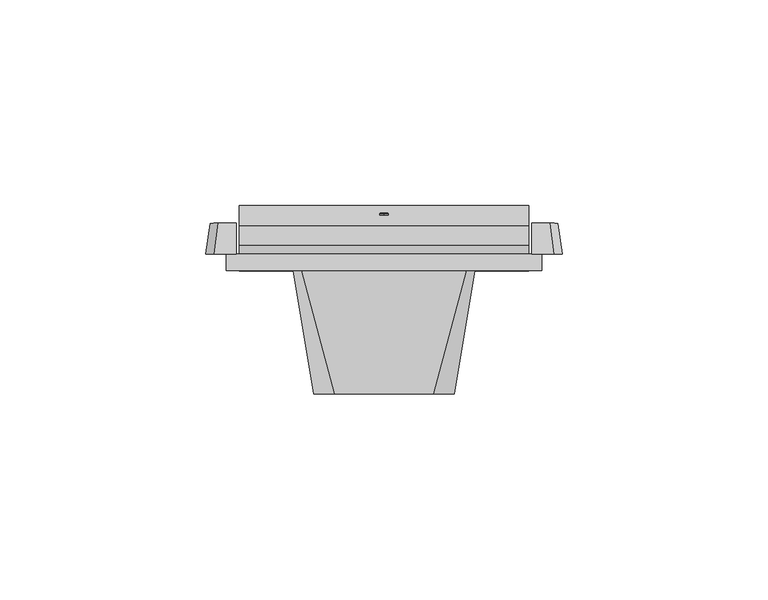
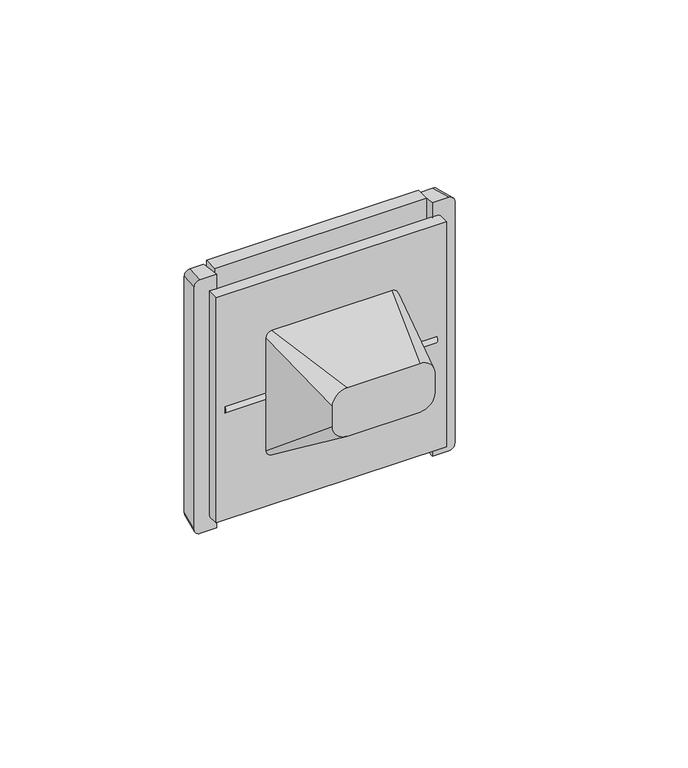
"""IFC4 building model written with IfcOpenShell, lengths in millimetres: proxy geometry, IEK_Forte&Piano_Выключатель : В1 И_FP102."""

from ifc_helpers import new_model, si_unit, point, frame, frame_2d, origin, place, context, project, spatial, polyline, circle_curve, ellipse_curve, trimmed, segment, composite_curve, outline, extrude, source, transform, mapped, element, save
from ifc_brep_helpers import plane_surface, cylinder_surface, revolved_surface, extruded_surface, spline_surface, advanced_brep


def electrical_fixtures_85e22a2f(model_context):
    return source(origin(), model_context, "Body", "SolidModel", [
        advanced_brep(
        [(35.2, 6.2549179, 2.9812023), (35.2, 0.9979294, 0.5298284), (35.2, 1.5972872, -2.8692983), (35.2, 6.5964168, -3.3066655), (35.2, 10.7814607, -43.5210494), (35.2, 15.7741028, -43.2498951), (35.2, 10.987727, 44.8795088), (35.2, 6.2549179, 44.8795088), (-35.2, 6.2549179, 2.9812023), (-35.2, 6.2549179, 44.8795088), (-35.2, 10.987727, 44.8795088), (-35.2, 15.7741028, -43.2498951), (-35.2, 10.7814607, -43.5210494), (-35.2, 6.5964168, -3.3066655), (-35.2, 1.5972872, -2.8692983), (-35.2, 0.9979294, 0.5298284), (-6.0000251, 7.4154801, -11.1771032), (6.0000251, 7.4154801, -11.1771032), (6.0000251, 7.8317535, -15.1771032), (-6.0000251, 7.8317535, -15.1771032), (6.0000251, 11.5120925, -11.1771032), (-6.0000251, 11.5120925, -11.1771032), (-6.0000251, 11.5120925, -15.1771032), (6.0000251, 11.5120925, -15.1771032)],
        [
            (0, 1),
            (1, 2, circle_curve(frame((35.2, 1.7530049, -1.0894363), z_axis=(1.0, 0.0, 0.0), x_axis=(0.0, 1.0, 0.0)), 1.7866608)),
            (2, 3),
            (3, 4),
            (4, 5),
            (5, 6),
            (6, 7),
            (7, 0),
            (8, 9),
            (9, 10),
            (10, 11),
            (11, 12),
            (12, 13),
            (13, 14),
            (14, 15, circle_curve(frame((-35.2, 1.7530049, -1.0894363), z_axis=(-1.0, 0.0, 0.0), x_axis=(0.0, 1.0, 0.0)), 1.7866608)),
            (15, 8),
            (7, 9),
            (8, 0),
            (15, 1),
            (14, 2),
            (13, 3),
            (12, 4),
            (16, 17),
            (17, 18, ellipse_curve(frame((6.0000251, 7.6236168, -13.1771032), z_axis=(0.0, 0.9946284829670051, 0.10350932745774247), x_axis=(0.0, -0.10350932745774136, 0.9946284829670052)), 2.0108011, 2.0)),
            (18, 19),
            (19, 16, ellipse_curve(frame((-6.0000251, 7.6236168, -13.1771032), z_axis=(0.0, 0.9946284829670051, 0.10350932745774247), x_axis=(0.0, -0.10350932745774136, 0.9946284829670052)), 2.0108011, 2.0)),
            (11, 5),
            (10, 6),
            (20, 21),
            (21, 22, circle_curve(frame((-6.0000251, 11.5120925, -13.1771032), z_axis=(0.0, -1.0, 0.0), x_axis=(1.0, 0.0, 0.0)), 2.0)),
            (22, 23),
            (23, 20, circle_curve(frame((6.0000251, 11.5120925, -13.1771032), z_axis=(0.0, -1.0, 0.0), x_axis=(1.0, 0.0, 0.0)), 2.0)),
            (20, 17),
            (16, 21),
            (19, 22),
            (18, 23),
        ],
        [
            plane_surface(frame((35.2, -0.6655077, -0.2458451), z_axis=(1.0, 0.0, 0.0), x_axis=(0.0, -0.9063077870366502, -0.42261826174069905))),
            plane_surface(frame((-35.2, -0.6655077, -0.2458451), z_axis=(-1.0, 0.0, 0.0), x_axis=(0.0, 0.9063077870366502, 0.42261826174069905))),
            plane_surface(frame((35.2, 6.2549179, 44.8795088), z_axis=(0.0, -1.0, 0.0), x_axis=(-1.0, 0.0, 0.0))),
            plane_surface(frame((35.2, 6.2549179, 2.9812023), z_axis=(0.0, -0.42261826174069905, 0.9063077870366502), x_axis=(-1.0, 0.0, 0.0))),
            cylinder_surface(frame((-35.2, 1.7530049, -1.0894363), z_axis=(1.0, 0.0, 0.0), x_axis=(0.0, 1.0, 0.0)), 1.7866608),
            plane_surface(frame((35.2, 1.5972872, -2.8692983), z_axis=(0.0, -0.08715574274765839, -0.9961946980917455), x_axis=(-1.0, 0.0, 0.0))),
            plane_surface(frame((35.2, 6.5964168, -3.3066655), z_axis=(0.0, -0.9946284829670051, -0.10350932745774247), x_axis=(-1.0, 0.0, 0.0))),
            plane_surface(frame((35.2, 10.7814607, -43.5210494), z_axis=(0.0, 0.05423084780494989, -0.998528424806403), x_axis=(-1.0, 0.0, 0.0))),
            plane_surface(frame((35.2, 15.7741028, -43.2498951), z_axis=(0.0, 0.9985284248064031, 0.05423084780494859), x_axis=(-1.0, 0.0, 0.0))),
            plane_surface(frame((35.2, 10.987727, 44.8795088), z_axis=(0.0, 0.0, 1.0), x_axis=(-1.0, 0.0, 0.0))),
            plane_surface(frame((-6.0000251, 11.5120925, -11.1771032), z_axis=(0.0, -1.0, 0.0), x_axis=(1.0, 0.0, 0.0))),
            plane_surface(frame((6.0000251, 3.5120925, -11.1771032), z_axis=(0.0, 0.0, -1.0), x_axis=(0.0, 1.0, 0.0))),
            revolved_surface(polyline([(-4.0000251, 7.4154801, -13.1771032), (-4.0000251, 11.5120925, -13.1771032)]), (-6.0000251, 11.5120925, -13.1771032), (0.0, -1.0, 0.0)),
            plane_surface(frame((-6.0000251, 3.5120925, -15.1771032), z_axis=(0.0, 0.0, 1.0), x_axis=(0.0, 1.0, 0.0))),
            revolved_surface(polyline([(8.0000251, 7.4154801, -13.1771032), (8.0000251, 11.5120925, -13.1771032)]), (6.0000251, 11.5120925, -13.1771032), (0.0, -1.0, 0.0)),
        ],
        [
            (0, [[1, 2, 3, 4, 5, 6, 7, 8]]),
            (1, [[9, 10, 11, 12, 13, 14, 15, 16]]),
            (2, [[-8, 17, -9, 18]]),
            (3, [[-1, -18, -16, 19]]),
            (4, [[-2, -19, -15, 20]]),
            (5, [[-3, -20, -14, 21]]),
            (6, [[-4, -21, -13, 22], [23, 24, 25, 26]]),
            (7, [[-5, -22, -12, 27]]),
            (8, [[-6, -27, -11, 28]]),
            (9, [[-7, -28, -10, -17]]),
            (10, [[29, 30, 31, 32]]),
            (11, [[-29, 33, -23, 34]]),
            (12, [[-30, -34, -26, 35]]),
            (13, [[-31, -35, -25, 36]]),
            (14, [[-32, -36, -24, -33]]),
        ],
    ),
        extrude(outline(composite_curve([segment(trimmed(circle_curve(frame_2d((0.0, -1.0000001)), 1.0), [point((0.0, -2.0000001))], [point((0.0, 0.0))], False, "CARTESIAN"), True, "CONTINUOUS"), segment(trimmed(circle_curve(frame_2d((0.0, -1.0000001)), 1.0), [point((0.0, 0.0))], [point((0.0, -2.0000001))], False, "CARTESIAN"), True, "CONTINUOUS")], self_intersect=False)), frame((0.0, 13.4719361, -0.8611253), z_axis=(0.0, 0.9985284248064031, 0.0542308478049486), x_axis=(1.0, 0.0, 0.0)), (0.0, 0.0, 1.0), 0.5),
        advanced_brep(
        [(35.8576533, 11.5, 43.5), (35.8576533, 11.5, -43.5), (35.8576533, 4.0, -44.5), (35.8576533, 4.0, -39.5), (35.8576533, 4.0, 39.5), (35.8576533, 4.0, 44.5), (-35.8576533, 11.5, -43.5), (-35.8576533, 11.5, 43.5), (-35.8576533, 4.0, 44.5), (-35.8576533, 4.0, 39.5), (-35.8576533, 4.0, -39.5), (-35.8576533, 4.0, -44.5), (40.25, 11.5, 43.5), (42.25, 11.5, 41.5), (42.25, 11.5, -41.5), (40.25, 11.5, -43.5), (-40.25, 11.5, -43.5), (-42.25, 11.5, -41.5), (-42.25, 11.5, 41.5), (-40.25, 11.5, 43.5), (-41.25, 4.0, 44.5), (-43.25, 4.0, 42.5), (-43.25, 4.0, -42.5), (-41.25, 4.0, -44.5), (-38.25, 4.0, -39.5), (-38.25, 4.0, 39.5), (41.25, 4.0, -44.5), (43.25, 4.0, -42.5), (43.25, 4.0, 42.5), (41.25, 4.0, 44.5), (38.25, 4.0, 39.5), (38.25, 4.0, -39.5), (-38.25, 0.0, 39.5), (-38.25, 0.0, -39.5), (38.25, 0.0, -39.5), (38.25, 0.0, 39.5)],
        [
            (0, 1),
            (1, 2),
            (2, 3),
            (3, 4),
            (4, 5),
            (5, 0),
            (6, 7),
            (7, 8),
            (8, 9),
            (9, 10),
            (10, 11),
            (11, 6),
            (12, 13, circle_curve(frame((40.25, 11.5, 41.5), z_axis=(0.0, 1.0, 0.0), x_axis=(-1.0, 0.0, 0.0)), 2.0)),
            (13, 14),
            (14, 15, circle_curve(frame((40.25, 11.5, -41.5), z_axis=(0.0, 1.0, 0.0), x_axis=(-1.0, 0.0, 0.0)), 2.0)),
            (15, 1),
            (0, 12),
            (16, 17, circle_curve(frame((-40.25, 11.5, -41.5), z_axis=(0.0, 1.0, 0.0), x_axis=(-1.0, 0.0, 0.0)), 2.0)),
            (17, 18),
            (18, 19, circle_curve(frame((-40.25, 11.5, 41.5), z_axis=(0.0, 1.0, 0.0), x_axis=(-1.0, 0.0, 0.0)), 2.0)),
            (19, 7),
            (6, 16),
            (20, 21, circle_curve(frame((-41.25, 4.0, 42.5), z_axis=(0.0, -1.0, 0.0), x_axis=(-1.0, 0.0, 0.0)), 2.0)),
            (21, 22),
            (22, 23, circle_curve(frame((-41.25, 4.0, -42.5), z_axis=(0.0, -1.0, 0.0), x_axis=(-1.0, 0.0, 0.0)), 2.0)),
            (23, 11),
            (10, 24),
            (24, 25),
            (25, 9),
            (8, 20),
            (26, 27, circle_curve(frame((41.25, 4.0, -42.5), z_axis=(0.0, -1.0, 0.0), x_axis=(-1.0, 0.0, 0.0)), 2.0)),
            (27, 28),
            (28, 29, circle_curve(frame((41.25, 4.0, 42.5), z_axis=(0.0, -1.0, 0.0), x_axis=(-1.0, 0.0, 0.0)), 2.0)),
            (29, 5),
            (4, 30),
            (30, 31),
            (31, 3),
            (2, 26),
            (29, 12),
            (19, 20),
            (28, 13),
            (27, 14),
            (26, 15),
            (23, 16),
            (22, 17),
            (21, 18),
            (3, 10),
            (9, 4),
            (32, 33),
            (33, 34),
            (34, 35),
            (35, 32),
            (32, 25),
            (24, 33),
            (31, 34),
            (30, 35),
        ],
        [
            plane_surface(frame((35.8576533, 11.5, 44.5), z_axis=(-1.0, 0.0, 0.0), x_axis=(0.0, -1.0, 0.0))),
            plane_surface(frame((-35.8576533, 11.5, -44.5), z_axis=(1.0, 0.0, 0.0), x_axis=(0.0, -1.0, 0.0))),
            plane_surface(frame((0.0, 11.5, 0.0), z_axis=(0.0, 1.0, 0.0), x_axis=(1.0, 0.0, 0.0))),
            plane_surface(frame((0.0, 4.0, 0.0), z_axis=(0.0, -1.0, 0.0), x_axis=(1.0, 0.0, 0.0))),
            plane_surface(frame((0.0, 4.0, 44.5), z_axis=(0.0, 0.13216372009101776, 0.9912279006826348), x_axis=(1.0, 0.0, 0.0))),
            extruded_surface(trimmed(circle_curve(frame((41.25, 4.0, 42.5), z_axis=(0.0, 1.0, 0.0), x_axis=(-1.0, 0.0, 0.0)), 2.0), [point((41.25, 4.0, 44.5))], [point((43.25, 4.0, 42.5))], True, "CARTESIAN"), (-1.0, 7.5, -1.0), 7.632168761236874),
            plane_surface(frame((43.25, 4.0, 0.0), z_axis=(0.9912279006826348, 0.13216372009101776, 0.0), x_axis=(0.0, 0.0, -1.0))),
            extruded_surface(trimmed(circle_curve(frame((41.25, 4.0, -42.5), z_axis=(0.0, 1.0, 0.0), x_axis=(-1.0, 0.0, 0.0)), 2.0), [point((43.25, 4.0, -42.5))], [point((41.25, 4.0, -44.5))], True, "CARTESIAN"), (-1.0, 7.5, 1.0), 7.632168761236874),
            plane_surface(frame((0.0, 4.0, -44.5), z_axis=(0.0, 0.13216372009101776, -0.9912279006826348), x_axis=(-1.0, 0.0, 0.0))),
            extruded_surface(trimmed(circle_curve(frame((-41.25, 4.0, -42.5), z_axis=(0.0, 1.0, 0.0), x_axis=(-1.0, 0.0, 0.0)), 2.0), [point((-41.25, 4.0, -44.5))], [point((-43.25, 4.0, -42.5))], True, "CARTESIAN"), (1.0, 7.5, 1.0), 7.632168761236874),
            plane_surface(frame((-43.25, 4.0, 0.0), z_axis=(-0.9912279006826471, 0.13216372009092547, 0.0), x_axis=(0.0, 0.0, 1.0))),
            extruded_surface(trimmed(circle_curve(frame((-41.25, 4.0, 42.5), z_axis=(0.0, 1.0, 0.0), x_axis=(-1.0, 0.0, 0.0)), 2.0), [point((-43.25, 4.0, 42.5))], [point((-41.25, 4.0, 44.5))], True, "CARTESIAN"), (1.0, 7.5, -1.0), 7.632168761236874),
            plane_surface(frame((-38.25, 4.0, 39.5), z_axis=(0.0, 1.0, 0.0), x_axis=(0.0, 0.0, 1.0))),
            plane_surface(frame((-38.25, 0.0, 39.5), z_axis=(0.0, -1.0, 0.0), x_axis=(0.0, 0.0, -1.0))),
            plane_surface(frame((-38.25, 0.0, 39.5), z_axis=(-1.0, 0.0, 0.0), x_axis=(0.0, 1.0, 0.0))),
            plane_surface(frame((-38.25, 0.0, -39.5), z_axis=(0.0, 0.0, -1.0), x_axis=(0.0, 1.0, 0.0))),
            plane_surface(frame((38.25, 0.0, -39.5), z_axis=(1.0, 0.0, 0.0), x_axis=(0.0, 1.0, 0.0))),
            plane_surface(frame((38.25, 0.0, 39.5), z_axis=(0.0, 0.0, 1.0), x_axis=(0.0, 1.0, 0.0))),
        ],
        [
            (0, [[1, 2, 3, 4, 5, 6]]),
            (1, [[7, 8, 9, 10, 11, 12]]),
            (2, [[13, 14, 15, 16, -1, 17]]),
            (2, [[18, 19, 20, 21, -7, 22]]),
            (3, [[23, 24, 25, 26, -11, 27, 28, 29, -9, 30]]),
            (3, [[31, 32, 33, 34, -5, 35, 36, 37, -3, 38]]),
            (4, [[39, -17, -6, -34]]),
            (4, [[40, -30, -8, -21]]),
            (5, [[-13, -39, -33, 41]]),
            (6, [[-14, -41, -32, 42]]),
            (7, [[-15, -42, -31, 43]]),
            (8, [[-43, -38, -2, -16]]),
            (8, [[44, -22, -12, -26]]),
            (9, [[-18, -44, -25, 45]]),
            (10, [[-19, -45, -24, 46]]),
            (11, [[-20, -46, -23, -40]]),
            (12, [[47, -10, 48, -4]]),
            (13, [[49, 50, 51, 52]]),
            (14, [[-49, 53, -28, 54]]),
            (15, [[-50, -54, -27, -47, -37, 55]]),
            (16, [[-51, -55, -36, 56]]),
            (17, [[-52, -56, -35, -48, -29, -53]]),
        ],
    ),
        advanced_brep(
        [(-12.0, -30.0, 17.0), (-17.0, -30.0, 12.0), (-17.0, -30.0, 5.0), (-12.0, -30.0, 0.0), (12.0, -30.0, 0.0), (17.0, -30.0, 5.0), (17.0, -30.0, 12.0), (12.0, -30.0, 17.0), (-20.0, 0.0, 22.0), (20.0, 0.0, 22.0), (22.0, 0.0, 20.0), (22.0, 0.0, -20.0), (20.0, 0.0, -22.0), (-20.0, 0.0, -22.0), (-22.0, 0.0, -20.0), (-22.0, 0.0, 20.0)],
        [
            (0, 1, circle_curve(frame((-12.0, -30.0, 12.0), z_axis=(0.0, -1.0, 0.0), x_axis=(1.0, 0.0, 0.0)), 5.0)),
            (1, 2),
            (2, 3, circle_curve(frame((-12.0, -30.0, 5.0), z_axis=(0.0, -1.0, 0.0), x_axis=(1.0, 0.0, 0.0)), 5.0)),
            (3, 4),
            (4, 5, circle_curve(frame((12.0, -30.0, 5.0), z_axis=(0.0, -1.0, 0.0), x_axis=(1.0, 0.0, 0.0)), 5.0)),
            (5, 6),
            (6, 7, circle_curve(frame((12.0, -30.0, 12.0), z_axis=(0.0, -1.0, 0.0), x_axis=(1.0, 0.0, 0.0)), 5.0)),
            (7, 0),
            (8, 9),
            (9, 10, circle_curve(frame((20.0, 0.0, 20.0), z_axis=(0.0, 1.0, 0.0), x_axis=(1.0, 0.0, 0.0)), 2.0)),
            (10, 11),
            (11, 12, circle_curve(frame((20.0, 0.0, -20.0), z_axis=(0.0, 1.0, 0.0), x_axis=(1.0, 0.0, 0.0)), 2.0)),
            (12, 13),
            (13, 14, circle_curve(frame((-20.0, 0.0, -20.0), z_axis=(0.0, 1.0, 0.0), x_axis=(1.0, 0.0, 0.0)), 2.0)),
            (14, 15),
            (15, 8, circle_curve(frame((-20.0, 0.0, 20.0), z_axis=(0.0, 1.0, 0.0), x_axis=(1.0, 0.0, 0.0)), 2.0)),
            (8, 0),
            (7, 9),
            (6, 10),
            (5, 11),
            (4, 12),
            (3, 13),
            (2, 14),
            (1, 15),
        ],
        [
            plane_surface(frame((0.0, -30.0, 8.5), z_axis=(0.0, -1.0, 0.0), x_axis=(-1.0, 0.0, 0.0))),
            plane_surface(frame((0.0, 0.0, 0.0), z_axis=(0.0, 1.0, 0.0), x_axis=(-1.0, 0.0, 0.0))),
            plane_surface(frame((0.0, 0.0, 22.0), z_axis=(0.0, -0.16439898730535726, 0.9863939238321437), x_axis=(-1.0, 0.0, 0.0))),
            spline_surface(2, 1, [[(22.0, 0.0, 20.0), (17.0, -30.0, 12.0)], [(22.0, 0.0, 22.0), (17.0, -30.0, 17.0)], [(20.0, 0.0, 22.0), (12.0, -30.0, 17.0)]], [3, 3], [2, 2], [0.0, 1.0], [0.0, 1.0], weights=[[1.0, 1.0], [0.7071067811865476, 0.7071067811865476], [1.0, 1.0]]),
            plane_surface(frame((22.0, 0.0, 0.0), z_axis=(0.9863939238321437, -0.1643989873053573, 0.0), x_axis=(0.0, 0.0, 1.0))),
            spline_surface(2, 1, [[(20.0, 0.0, -22.0), (12.0, -30.0, 0.0)], [(22.0, 0.0, -22.0), (17.0, -30.0, 0.0)], [(22.0, 0.0, -20.0), (17.0, -30.0, 5.0)]], [3, 3], [2, 2], [0.0, 1.0], [0.0, 1.0], weights=[[1.0, 1.0], [0.7071067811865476, 0.7071067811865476], [1.0, 1.0]]),
            plane_surface(frame((0.0, 0.0, -22.0), z_axis=(0.0, -0.591363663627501, -0.8064049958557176), x_axis=(1.0, 0.0, 0.0))),
            spline_surface(2, 1, [[(-22.0, 0.0, -20.0), (-17.0, -30.0, 5.0)], [(-22.0, 0.0, -22.0), (-17.0, -30.0, 0.0)], [(-20.0, 0.0, -22.0), (-12.0, -30.0, 0.0)]], [3, 3], [2, 2], [0.0, 1.0], [0.0, 1.0], weights=[[1.0, 1.0], [0.7071067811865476, 0.7071067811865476], [1.0, 1.0]]),
            plane_surface(frame((-22.0, 0.0, 0.0), z_axis=(-0.9863939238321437, -0.1643989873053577, 0.0), x_axis=(0.0, 0.0, -1.0))),
            spline_surface(2, 1, [[(-20.0, 0.0, 22.0), (-12.0, -30.0, 17.0)], [(-22.0, 0.0, 22.0), (-17.0, -30.0, 17.0)], [(-22.0, 0.0, 20.0), (-17.0, -30.0, 12.0)]], [3, 3], [2, 2], [0.0, 1.0], [0.0, 1.0], weights=[[1.0, 1.0], [0.7071067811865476, 0.7071067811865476], [1.0, 1.0]]),
        ],
        [
            (0, [[1, 2, 3, 4, 5, 6, 7, 8]]),
            (1, [[9, 10, 11, 12, 13, 14, 15, 16]]),
            (2, [[-9, 17, -8, 18]]),
            (3, [[-10, -18, -7, 19]]),
            (4, [[-11, -19, -6, 20]]),
            (5, [[-12, -20, -5, 21]]),
            (6, [[-13, -21, -4, 22]]),
            (7, [[-14, -22, -3, 23]]),
            (8, [[-15, -23, -2, 24]]),
            (9, [[-16, -24, -1, -17]]),
        ],
    ),
    ])


if __name__ == "__main__":
    model = new_model("IFC4")
    model_context = context("Model", 3, world=origin())
    ifc_project = project(units=[si_unit("LENGTHUNIT", "METRE", prefix="MILLI")], contexts=[model_context])
    site = spatial("IfcSite", under=ifc_project)
    building = spatial("IfcBuilding", under=site)
    placement = place(None, origin())
    electrical_fixtures_shape = electrical_fixtures_85e22a2f(model_context)
    element("IfcBuildingElementProxy", 1, Name="IEK_Forte&Piano_Выключатель : В1 И_FP102", ObjectType="IEK_Forte&Piano_Выключатель : В1 И_FP102", at=placement, inside=building, context=model_context, shape_type="MappedRepresentation", body=[
        mapped(electrical_fixtures_shape, transform((0.0, 0.0, 0.0), x_axis=(1.0, 0.0, 0.0), y_axis=(0.0, 1.0, 0.0), z_axis=(0.0, 0.0, 1.0))),
    ])
    save(model, "model.ifc")
